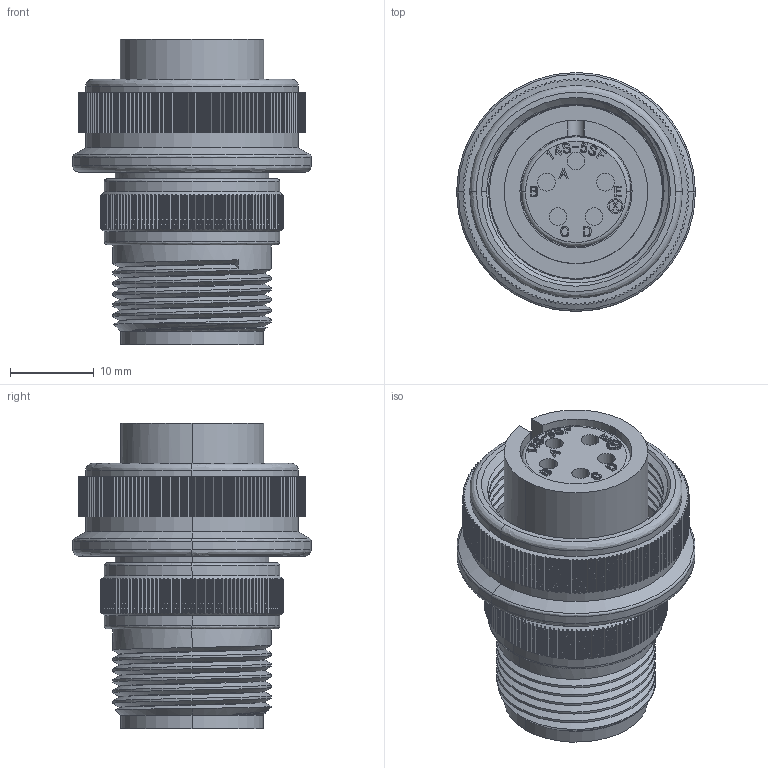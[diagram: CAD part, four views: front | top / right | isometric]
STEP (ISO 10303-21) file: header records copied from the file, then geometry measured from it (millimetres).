
FILE_DESCRIPTION (( 'STEP AP203' ), '1' );
FILE_NAME ('DMS3106A14S-5S.STEP', '2017-03-09T01:11:13', ( '' ), ( '' ), 'SwSTEP 2.0', 'SolidWorks 2015', '' );
FILE_SCHEMA (( 'CONFIG_CONTROL_DESIGN' ));
Products named in the file (1): DMS3106A14S-5S
Bounding box: 28.52 x 28.52 x 36.49 mm (x, y, z)
Volume: 9116.7 mm3; surface area: 10301.3 mm2
Topology: 1 solids, 2 shells, 2695 faces, 7827 edges, 5197 vertices
Faces by surface type: cylinder 1453, plane 899, bspline 318, cone 25
Entity records: 109175 total; most frequent: CARTESIAN_POINT 41516, ORIENTED_EDGE 15652, DIRECTION 12374, EDGE_CURVE 7826, VERTEX_POINT 5197, AXIS2_PLACEMENT_3D 4372, VECTOR 3630, LINE 3630
